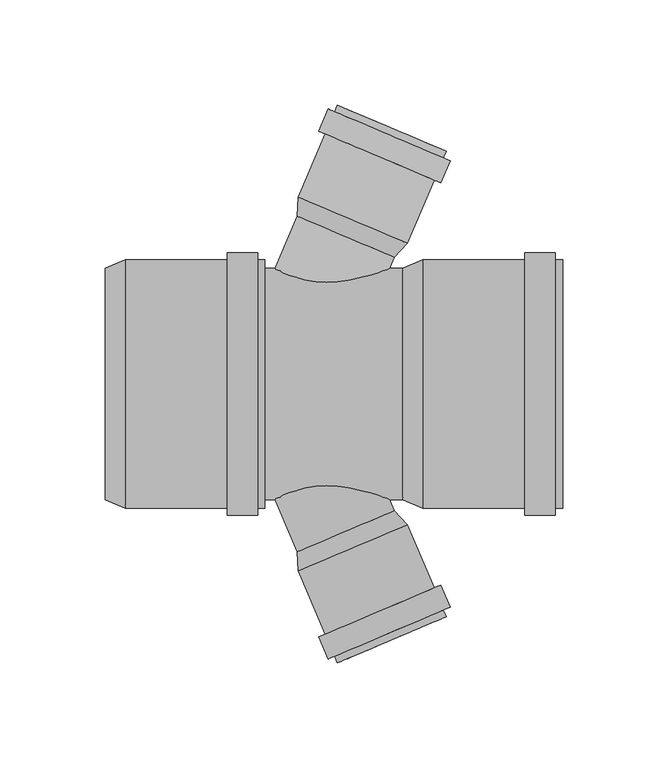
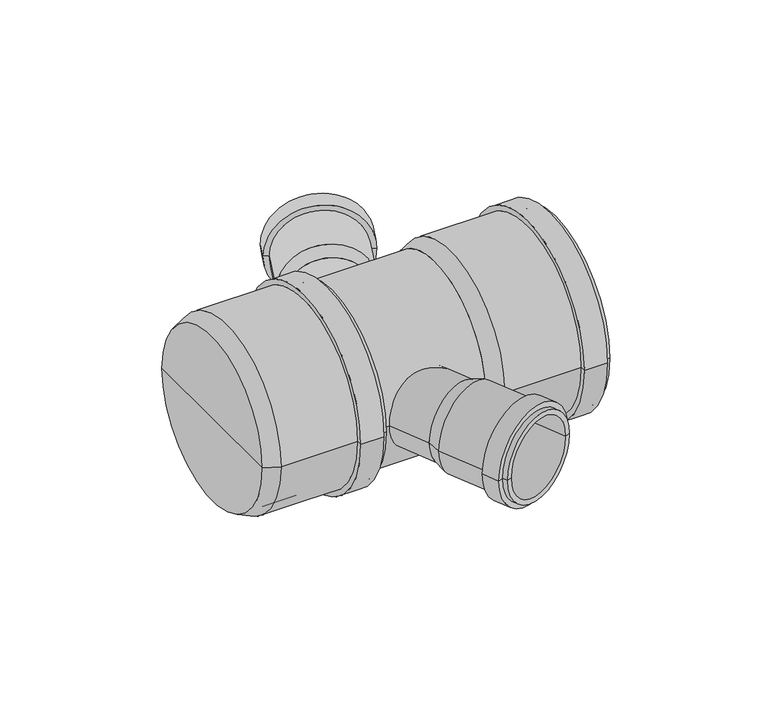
"""IFC4 building model written with IfcOpenShell, lengths in millimetres: pipe fitting geometry, pf_HTDA : pf_HTDA."""

from ifc_helpers import new_model, si_unit, point, frame, origin, origin_2d, place, context, project, spatial, polyline, circle_curve, trimmed, segment, composite_curve, outline, extrude, source, transform, mapped, element, save
from ifc_brep_helpers import plane_surface, cylinder_surface, revolved_surface, advanced_brep


def pipe_fitting_b3aaeca4(model_context):
    return source(origin(), model_context, "Body", "SolidModel", [
        advanced_brep(
        [(52.7472602, 60.2821411, 0.0), (6.7220175, 79.8186976, 0.0), (7.1896671, 88.8542553, 0.0), (58.9220399, 66.8951659, 0.0), (29.7346389, 70.0504193, 0.0), (77.4817685, 110.6191464, 0.0), (25.7493957, 132.5782359, 0.0), (28.6029607, 131.3669694, 0.0), (74.6282034, 111.8304129, 0.0), (76.1532826, 107.4894299, 0.0), (24.4209099, 129.4485193, 0.0), (79.2829991, 106.1609441, 0.0), (21.2911934, 130.7770052, 0.0), (74.8286643, 95.6671888, 0.0), (16.8368585, 120.2832499, 0.0), (71.6989478, 96.9956746, 0.0), (19.966575, 118.954764, 0.0), (56.0684748, 68.1064324, 0.0), (10.0432321, 87.6429888, 0.0), (33.0558535, 77.8747106, 0.0)],
        [
            (0, 1, circle_curve(frame((29.7346389, 70.0504193, 0.0), z_axis=(0.39073112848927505, 0.9205048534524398, 0.0), x_axis=(-0.9205048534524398, 0.39073112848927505, 0.0)), 25.0)),
            (1, 2),
            (2, 3, circle_curve(frame((33.0558535, 77.8747106, 0.0), z_axis=(-0.39073112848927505, -0.9205048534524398, 0.0), x_axis=(-0.9205048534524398, 0.39073112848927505, 0.0)), 28.1)),
            (3, 0),
            (1, 0, circle_curve(frame((29.7346389, 70.0504193, 0.0), z_axis=(0.39073112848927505, 0.9205048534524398, 0.0), x_axis=(-0.9205048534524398, 0.39073112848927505, 0.0)), 25.0)),
            (3, 2, circle_curve(frame((33.0558535, 77.8747106, 0.0), z_axis=(-0.39073112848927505, -0.9205048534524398, 0.0), x_axis=(-0.9205048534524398, 0.39073112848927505, 0.0)), 28.1)),
            (4, 1),
            (0, 4),
            (5, 6, circle_curve(frame((51.6155821, 121.5986911, 0.0), z_axis=(0.39073112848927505, 0.9205048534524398, 0.0), x_axis=(-0.9205048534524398, 0.39073112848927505, 0.0)), 28.1)),
            (6, 7),
            (7, 8, circle_curve(frame((51.6155821, 121.5986911, 0.0), z_axis=(-0.39073112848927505, -0.9205048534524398, 0.0), x_axis=(-0.9205048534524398, 0.39073112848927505, 0.0)), 25.0)),
            (8, 5),
            (6, 5, circle_curve(frame((51.6155821, 121.5986911, 0.0), z_axis=(0.39073112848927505, 0.9205048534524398, 0.0), x_axis=(-0.9205048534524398, 0.39073112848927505, 0.0)), 28.1)),
            (8, 7, circle_curve(frame((51.6155821, 121.5986911, 0.0), z_axis=(-0.39073112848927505, -0.9205048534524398, 0.0), x_axis=(-0.9205048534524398, 0.39073112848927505, 0.0)), 25.0)),
            (9, 10, circle_curve(frame((50.2870962, 118.4689746, 0.0), z_axis=(0.39073112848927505, 0.9205048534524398, 0.0), x_axis=(-0.9205048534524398, 0.39073112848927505, 0.0)), 28.1)),
            (10, 6),
            (5, 9),
            (10, 9, circle_curve(frame((50.2870962, 118.4689746, 0.0), z_axis=(0.39073112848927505, 0.9205048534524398, 0.0), x_axis=(-0.9205048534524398, 0.39073112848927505, 0.0)), 28.1)),
            (11, 12, circle_curve(frame((50.2870962, 118.4689746, 0.0), z_axis=(0.39073112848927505, 0.9205048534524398, 0.0), x_axis=(-0.9205048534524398, 0.39073112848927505, 0.0)), 31.5)),
            (12, 10),
            (9, 11),
            (12, 11, circle_curve(frame((50.2870962, 118.4689746, 0.0), z_axis=(0.39073112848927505, 0.9205048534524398, 0.0), x_axis=(-0.9205048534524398, 0.39073112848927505, 0.0)), 31.5)),
            (13, 14, circle_curve(frame((45.8327614, 107.9752193, 0.0), z_axis=(0.39073112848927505, 0.9205048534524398, 0.0), x_axis=(-0.9205048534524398, 0.39073112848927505, 0.0)), 31.5)),
            (14, 12),
            (11, 13),
            (14, 13, circle_curve(frame((45.8327614, 107.9752193, 0.0), z_axis=(0.39073112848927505, 0.9205048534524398, 0.0), x_axis=(-0.9205048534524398, 0.39073112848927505, 0.0)), 31.5)),
            (15, 16, circle_curve(frame((45.8327614, 107.9752193, 0.0), z_axis=(0.39073112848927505, 0.9205048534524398, 0.0), x_axis=(-0.9205048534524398, 0.39073112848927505, 0.0)), 28.1)),
            (16, 14),
            (13, 15),
            (16, 15, circle_curve(frame((45.8327614, 107.9752193, 0.0), z_axis=(0.39073112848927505, 0.9205048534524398, 0.0), x_axis=(-0.9205048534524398, 0.39073112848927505, 0.0)), 28.1)),
            (2, 16),
            (15, 3),
            (17, 18, circle_curve(frame((33.0558535, 77.8747106, 0.0), z_axis=(0.39073112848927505, 0.9205048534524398, 0.0), x_axis=(-0.9205048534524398, 0.39073112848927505, 0.0)), 25.0)),
            (18, 19),
            (19, 17),
            (18, 17, circle_curve(frame((33.0558535, 77.8747106, 0.0), z_axis=(0.39073112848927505, 0.9205048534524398, 0.0), x_axis=(-0.9205048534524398, 0.39073112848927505, 0.0)), 25.0)),
            (7, 18),
            (17, 8),
        ],
        [
            revolved_surface(polyline([(7.1896671, 88.8542553, 0.0), (6.7220175, 79.8186976, 0.0)]), (29.7346389, 70.0504193, 0.0), (-0.39073112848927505, -0.9205048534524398, 0.0)),
            plane_surface(frame((29.7346389, 70.0504193, 0.0), z_axis=(-0.39073112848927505, -0.9205048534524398, 0.0), x_axis=(-0.9205048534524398, 0.39073112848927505, 0.0))),
            plane_surface(frame((51.6155821, 121.5986911, 0.0), z_axis=(0.39073112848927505, 0.9205048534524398, 0.0), x_axis=(-0.9205048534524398, 0.39073112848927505, 0.0))),
            cylinder_surface(frame((29.7346389, 70.0504193, 0.0), z_axis=(-0.39073112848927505, -0.9205048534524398, 0.0), x_axis=(-0.9205048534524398, 0.39073112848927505, 0.0)), 28.1),
            plane_surface(frame((50.2870962, 118.4689746, 0.0), z_axis=(0.39073112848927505, 0.9205048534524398, 0.0), x_axis=(-0.9205048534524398, 0.39073112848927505, 0.0))),
            cylinder_surface(frame((29.7346389, 70.0504193, 0.0), z_axis=(-0.39073112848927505, -0.9205048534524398, 0.0), x_axis=(-0.9205048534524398, 0.39073112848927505, 0.0)), 31.5),
            plane_surface(frame((45.8327614, 107.9752193, 0.0), z_axis=(-0.39073112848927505, -0.9205048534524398, 0.0), x_axis=(-0.9205048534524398, 0.39073112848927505, 0.0))),
            plane_surface(frame((33.0558535, 77.8747106, 0.0), z_axis=(0.39073112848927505, 0.9205048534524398, 0.0), x_axis=(-0.9205048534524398, 0.39073112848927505, 0.0))),
            revolved_surface(polyline([(10.043232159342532, 87.64298877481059, 0.0), (28.60296078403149, 131.36696936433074, 0.0)]), (29.7346389, 70.0504193, 0.0), (-0.39073112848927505, -0.9205048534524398, 0.0)),
        ],
        [
            (0, [[1, 2, 3, 4]]),
            (0, [[5, -4, 6, -2]]),
            (1, [[7, -1, 8]]),
            (1, [[-8, -5, -7]]),
            (2, [[9, 10, 11, 12]]),
            (2, [[13, -12, 14, -10]]),
            (3, [[15, 16, -9, 17]]),
            (3, [[18, -17, -13, -16]]),
            (4, [[19, 20, -15, 21]]),
            (4, [[22, -21, -18, -20]]),
            (5, [[23, 24, -19, 25]]),
            (5, [[26, -25, -22, -24]]),
            (6, [[27, 28, -23, 29]]),
            (6, [[30, -29, -26, -28]]),
            (3, [[-3, 31, -27, 32]]),
            (3, [[-6, -32, -30, -31]]),
            (7, [[33, 34, 35]]),
            (7, [[36, -35, -34]]),
            (8, [[-11, 37, -33, 38]]),
            (8, [[-14, -38, -36, -37]]),
        ],
    ),
        advanced_brep(
        [(6.7220175, -79.8186976, 0.0), (52.7472602, -60.2821411, 0.0), (58.9220399, -66.8951659, 0.0), (7.1896671, -88.8542553, 0.0), (29.7346389, -70.0504193, 0.0), (25.7493957, -132.5782359, 0.0), (77.4817685, -110.6191464, 0.0), (74.6282034, -111.8304129, 0.0), (28.6029607, -131.3669694, 0.0), (24.4209099, -129.4485193, 0.0), (76.1532826, -107.4894299, 0.0), (21.2911934, -130.7770052, 0.0), (79.2829991, -106.1609441, 0.0), (16.8368585, -120.2832499, 0.0), (74.8286643, -95.6671888, 0.0), (19.966575, -118.954764, 0.0), (71.6989478, -96.9956746, 0.0), (10.0432321, -87.6429888, 0.0), (56.0684748, -68.1064324, 0.0), (33.0558535, -77.8747106, 0.0)],
        [
            (0, 1, circle_curve(frame((29.7346389, -70.0504193, 0.0), z_axis=(0.3907311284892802, -0.9205048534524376, 0.0), x_axis=(0.9205048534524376, 0.3907311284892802, 0.0)), 25.0)),
            (1, 2),
            (2, 3, circle_curve(frame((33.0558535, -77.8747106, 0.0), z_axis=(-0.3907311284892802, 0.9205048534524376, 0.0), x_axis=(0.9205048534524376, 0.3907311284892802, 0.0)), 28.1)),
            (3, 0),
            (1, 0, circle_curve(frame((29.7346389, -70.0504193, 0.0), z_axis=(0.3907311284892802, -0.9205048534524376, 0.0), x_axis=(0.9205048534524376, 0.3907311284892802, 0.0)), 25.0)),
            (3, 2, circle_curve(frame((33.0558535, -77.8747106, 0.0), z_axis=(-0.3907311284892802, 0.9205048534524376, 0.0), x_axis=(0.9205048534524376, 0.3907311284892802, 0.0)), 28.1)),
            (4, 1),
            (0, 4),
            (5, 6, circle_curve(frame((51.6155821, -121.5986911, 0.0), z_axis=(0.3907311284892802, -0.9205048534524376, 0.0), x_axis=(0.9205048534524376, 0.3907311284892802, 0.0)), 28.1)),
            (6, 7),
            (7, 8, circle_curve(frame((51.6155821, -121.5986911, 0.0), z_axis=(-0.3907311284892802, 0.9205048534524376, 0.0), x_axis=(0.9205048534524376, 0.3907311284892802, 0.0)), 25.0)),
            (8, 5),
            (6, 5, circle_curve(frame((51.6155821, -121.5986911, 0.0), z_axis=(0.3907311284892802, -0.9205048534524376, 0.0), x_axis=(0.9205048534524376, 0.3907311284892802, 0.0)), 28.1)),
            (8, 7, circle_curve(frame((51.6155821, -121.5986911, 0.0), z_axis=(-0.3907311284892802, 0.9205048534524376, 0.0), x_axis=(0.9205048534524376, 0.3907311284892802, 0.0)), 25.0)),
            (9, 10, circle_curve(frame((50.2870962, -118.4689746, 0.0), z_axis=(0.3907311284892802, -0.9205048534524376, 0.0), x_axis=(0.9205048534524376, 0.3907311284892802, 0.0)), 28.1)),
            (10, 6),
            (5, 9),
            (10, 9, circle_curve(frame((50.2870962, -118.4689746, 0.0), z_axis=(0.3907311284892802, -0.9205048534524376, 0.0), x_axis=(0.9205048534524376, 0.3907311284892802, 0.0)), 28.1)),
            (11, 12, circle_curve(frame((50.2870962, -118.4689746, 0.0), z_axis=(0.3907311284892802, -0.9205048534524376, 0.0), x_axis=(0.9205048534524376, 0.3907311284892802, 0.0)), 31.5)),
            (12, 10),
            (9, 11),
            (12, 11, circle_curve(frame((50.2870962, -118.4689746, 0.0), z_axis=(0.3907311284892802, -0.9205048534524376, 0.0), x_axis=(0.9205048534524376, 0.3907311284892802, 0.0)), 31.5)),
            (13, 14, circle_curve(frame((45.8327614, -107.9752193, 0.0), z_axis=(0.3907311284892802, -0.9205048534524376, 0.0), x_axis=(0.9205048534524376, 0.3907311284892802, 0.0)), 31.5)),
            (14, 12),
            (11, 13),
            (14, 13, circle_curve(frame((45.8327614, -107.9752193, 0.0), z_axis=(0.3907311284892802, -0.9205048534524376, 0.0), x_axis=(0.9205048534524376, 0.3907311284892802, 0.0)), 31.5)),
            (15, 16, circle_curve(frame((45.8327614, -107.9752193, 0.0), z_axis=(0.3907311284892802, -0.9205048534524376, 0.0), x_axis=(0.9205048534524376, 0.3907311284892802, 0.0)), 28.1)),
            (16, 14),
            (13, 15),
            (16, 15, circle_curve(frame((45.8327614, -107.9752193, 0.0), z_axis=(0.3907311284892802, -0.9205048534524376, 0.0), x_axis=(0.9205048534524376, 0.3907311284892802, 0.0)), 28.1)),
            (2, 16),
            (15, 3),
            (17, 18, circle_curve(frame((33.0558535, -77.8747106, 0.0), z_axis=(0.3907311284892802, -0.9205048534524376, 0.0), x_axis=(0.9205048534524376, 0.3907311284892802, 0.0)), 25.0)),
            (18, 19),
            (19, 17),
            (18, 17, circle_curve(frame((33.0558535, -77.8747106, 0.0), z_axis=(0.3907311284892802, -0.9205048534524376, 0.0), x_axis=(0.9205048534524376, 0.3907311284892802, 0.0)), 25.0)),
            (7, 18),
            (17, 8),
        ],
        [
            revolved_surface(polyline([(58.9220399, -66.8951659, 0.0), (52.7472602, -60.2821411, 0.0)]), (29.7346389, -70.0504193, 0.0), (-0.3907311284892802, 0.9205048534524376, 0.0)),
            plane_surface(frame((29.7346389, -70.0504193, 0.0), z_axis=(-0.3907311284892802, 0.9205048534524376, 0.0), x_axis=(0.9205048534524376, 0.3907311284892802, 0.0))),
            plane_surface(frame((51.6155821, -121.5986911, 0.0), z_axis=(0.3907311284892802, -0.9205048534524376, 0.0), x_axis=(0.9205048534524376, 0.3907311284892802, 0.0))),
            cylinder_surface(frame((29.7346389, -70.0504193, 0.0), z_axis=(-0.3907311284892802, 0.9205048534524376, 0.0), x_axis=(0.9205048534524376, 0.3907311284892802, 0.0)), 28.1),
            plane_surface(frame((50.2870962, -118.4689746, 0.0), z_axis=(0.3907311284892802, -0.9205048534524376, 0.0), x_axis=(0.9205048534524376, 0.3907311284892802, 0.0))),
            cylinder_surface(frame((29.7346389, -70.0504193, 0.0), z_axis=(-0.3907311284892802, 0.9205048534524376, 0.0), x_axis=(0.9205048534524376, 0.3907311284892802, 0.0)), 31.5),
            plane_surface(frame((45.8327614, -107.9752193, 0.0), z_axis=(-0.3907311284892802, 0.9205048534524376, 0.0), x_axis=(0.9205048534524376, 0.3907311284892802, 0.0))),
            plane_surface(frame((33.0558535, -77.8747106, 0.0), z_axis=(0.3907311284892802, -0.9205048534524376, 0.0), x_axis=(0.9205048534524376, 0.3907311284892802, 0.0))),
            revolved_surface(polyline([(56.06847483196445, -68.10643235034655, 0.0), (74.62820345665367, -111.83041293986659, 0.0)]), (29.7346389, -70.0504193, 0.0), (-0.3907311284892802, 0.9205048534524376, 0.0)),
        ],
        [
            (0, [[1, 2, 3, 4]]),
            (0, [[5, -4, 6, -2]]),
            (1, [[7, -1, 8]]),
            (1, [[-8, -5, -7]]),
            (2, [[9, 10, 11, 12]]),
            (2, [[13, -12, 14, -10]]),
            (3, [[15, 16, -9, 17]]),
            (3, [[18, -17, -13, -16]]),
            (4, [[19, 20, -15, 21]]),
            (4, [[22, -21, -18, -20]]),
            (5, [[23, 24, -19, 25]]),
            (5, [[26, -25, -22, -24]]),
            (6, [[27, 28, -23, 29]]),
            (6, [[30, -29, -26, -28]]),
            (3, [[-3, 31, -27, 32]]),
            (3, [[-6, -32, -30, -31]]),
            (7, [[33, 34, 35]]),
            (7, [[36, -35, -34]]),
            (8, [[-11, 37, -33, 38]]),
            (8, [[-14, -38, -36, -37]]),
        ],
    ),
        advanced_brep(
        [(56.8, -55.0, 0.0), (56.8, 55.0, 0.0), (66.3, 59.1, 0.0), (66.3, -59.1, 0.0), (56.8, 0.0, 0.0), (132.8, -59.1, 0.0), (132.8, 59.1, 0.0), (132.8, 55.0, 0.0), (132.8, -55.0, 0.0), (129.4, -59.1, 0.0), (129.4, 59.1, 0.0), (129.4, -62.5, 0.0), (129.4, 62.5, 0.0), (114.9, -62.5, 0.0), (114.9, 62.5, 0.0), (114.9, -59.1, 0.0), (114.9, 59.1, 0.0), (66.3, -55.0, 0.0), (66.3, 55.0, 0.0), (66.3, 0.0, 0.0)],
        [
            (0, 1, circle_curve(frame((56.8, 0.0, 0.0), z_axis=(1.0, 0.0, 0.0), x_axis=(0.0, 1.0, 0.0)), 55.0)),
            (1, 2),
            (2, 3, circle_curve(frame((66.3, 0.0, 0.0), z_axis=(-1.0, 0.0, 0.0), x_axis=(0.0, 1.0, 0.0)), 59.1)),
            (3, 0),
            (1, 0, circle_curve(frame((56.8, 0.0, 0.0), z_axis=(1.0, 0.0, 0.0), x_axis=(0.0, 1.0, 0.0)), 55.0)),
            (3, 2, circle_curve(frame((66.3, 0.0, 0.0), z_axis=(-1.0, 0.0, 0.0), x_axis=(0.0, 1.0, 0.0)), 59.1)),
            (4, 1),
            (0, 4),
            (5, 6, circle_curve(frame((132.8, 0.0, 0.0), z_axis=(1.0, 0.0, 0.0), x_axis=(0.0, 1.0, 0.0)), 59.1)),
            (6, 7),
            (7, 8, circle_curve(frame((132.8, 0.0, 0.0), z_axis=(-1.0, 0.0, 0.0), x_axis=(0.0, 1.0, 0.0)), 55.0)),
            (8, 5),
            (6, 5, circle_curve(frame((132.8, 0.0, 0.0), z_axis=(1.0, 0.0, 0.0), x_axis=(0.0, 1.0, 0.0)), 59.1)),
            (8, 7, circle_curve(frame((132.8, 0.0, 0.0), z_axis=(-1.0, 0.0, 0.0), x_axis=(0.0, 1.0, 0.0)), 55.0)),
            (9, 10, circle_curve(frame((129.4, 0.0, 0.0), z_axis=(1.0, 0.0, 0.0), x_axis=(0.0, 1.0, 0.0)), 59.1)),
            (10, 6),
            (5, 9),
            (10, 9, circle_curve(frame((129.4, 0.0, 0.0), z_axis=(1.0, 0.0, 0.0), x_axis=(0.0, 1.0, 0.0)), 59.1)),
            (11, 12, circle_curve(frame((129.4, 0.0, 0.0), z_axis=(1.0, 0.0, 0.0), x_axis=(0.0, 1.0, 0.0)), 62.5)),
            (12, 10),
            (9, 11),
            (12, 11, circle_curve(frame((129.4, 0.0, 0.0), z_axis=(1.0, 0.0, 0.0), x_axis=(0.0, 1.0, 0.0)), 62.5)),
            (13, 14, circle_curve(frame((114.9, 0.0, 0.0), z_axis=(1.0, 0.0, 0.0), x_axis=(0.0, 1.0, 0.0)), 62.5)),
            (14, 12),
            (11, 13),
            (14, 13, circle_curve(frame((114.9, 0.0, 0.0), z_axis=(1.0, 0.0, 0.0), x_axis=(0.0, 1.0, 0.0)), 62.5)),
            (15, 16, circle_curve(frame((114.9, 0.0, 0.0), z_axis=(1.0, 0.0, 0.0), x_axis=(0.0, 1.0, 0.0)), 59.1)),
            (16, 14),
            (13, 15),
            (16, 15, circle_curve(frame((114.9, 0.0, 0.0), z_axis=(1.0, 0.0, 0.0), x_axis=(0.0, 1.0, 0.0)), 59.1)),
            (2, 16),
            (15, 3),
            (17, 18, circle_curve(frame((66.3, 0.0, 0.0), z_axis=(1.0, 0.0, 0.0), x_axis=(0.0, 1.0, 0.0)), 55.0)),
            (18, 19),
            (19, 17),
            (18, 17, circle_curve(frame((66.3, 0.0, 0.0), z_axis=(1.0, 0.0, 0.0), x_axis=(0.0, 1.0, 0.0)), 55.0)),
            (7, 18),
            (17, 8),
        ],
        [
            revolved_surface(polyline([(66.3, 59.1, 0.0), (56.8, 55.0, 0.0)]), (56.8, 0.0, 0.0), (-1.0, 0.0, 0.0)),
            plane_surface(frame((56.8, 0.0, 0.0), z_axis=(-1.0, 0.0, 0.0), x_axis=(0.0, 1.0, 0.0))),
            plane_surface(frame((132.8, 0.0, 0.0), z_axis=(1.0, 0.0, 0.0), x_axis=(0.0, 1.0, 0.0))),
            cylinder_surface(frame((56.8, 0.0, 0.0), z_axis=(-1.0, 0.0, 0.0), x_axis=(0.0, 1.0, 0.0)), 59.1),
            plane_surface(frame((129.4, 0.0, 0.0), z_axis=(1.0, 0.0, 0.0), x_axis=(0.0, 1.0, 0.0))),
            cylinder_surface(frame((56.8, 0.0, 0.0), z_axis=(-1.0, 0.0, 0.0), x_axis=(0.0, 1.0, 0.0)), 62.5),
            plane_surface(frame((114.9, 0.0, 0.0), z_axis=(-1.0, 0.0, 0.0), x_axis=(0.0, 1.0, 0.0))),
            plane_surface(frame((66.3, 0.0, 0.0), z_axis=(1.0, 0.0, 0.0), x_axis=(0.0, 1.0, 0.0))),
            revolved_surface(polyline([(66.3, 55.0, 0.0), (132.8, 55.0, 0.0)]), (56.8, 0.0, 0.0), (-1.0, 0.0, 0.0)),
        ],
        [
            (0, [[1, 2, 3, 4]]),
            (0, [[5, -4, 6, -2]]),
            (1, [[7, -1, 8]]),
            (1, [[-8, -5, -7]]),
            (2, [[9, 10, 11, 12]]),
            (2, [[13, -12, 14, -10]]),
            (3, [[15, 16, -9, 17]]),
            (3, [[18, -17, -13, -16]]),
            (4, [[19, 20, -15, 21]]),
            (4, [[22, -21, -18, -20]]),
            (5, [[23, 24, -19, 25]]),
            (5, [[26, -25, -22, -24]]),
            (6, [[27, 28, -23, 29]]),
            (6, [[30, -29, -26, -28]]),
            (3, [[-3, 31, -27, 32]]),
            (3, [[-6, -32, -30, -31]]),
            (7, [[33, 34, 35]]),
            (7, [[36, -35, -34]]),
            (8, [[-11, 37, -33, 38]]),
            (8, [[-14, -38, -36, -37]]),
        ],
    ),
        advanced_brep(
        [(-84.7, -55.0, 0.0), (-84.7, 55.0, 0.0), (-75.2, 59.1, 0.0), (-75.2, -59.1, 0.0), (-84.7, 0.0, 0.0), (-8.7, -59.1, 0.0), (-8.7, 59.1, 0.0), (-8.7, 55.0, 0.0), (-8.7, -55.0, 0.0), (-12.1, -59.1, 0.0), (-12.1, 59.1, 0.0), (-12.1, -62.5, 0.0), (-12.1, 62.5, 0.0), (-26.6, -62.5, 0.0), (-26.6, 62.5, 0.0), (-26.6, -59.1, 0.0), (-26.6, 59.1, 0.0), (-75.2, -55.0, 0.0), (-75.2, 55.0, 0.0), (-75.2, 0.0, 0.0)],
        [
            (0, 1, circle_curve(frame((-84.7, 0.0, 0.0), z_axis=(1.0, 0.0, 0.0), x_axis=(0.0, 1.0, 0.0)), 55.0)),
            (1, 2),
            (2, 3, circle_curve(frame((-75.2, 0.0, 0.0), z_axis=(-1.0, 0.0, 0.0), x_axis=(0.0, 1.0, 0.0)), 59.1)),
            (3, 0),
            (1, 0, circle_curve(frame((-84.7, 0.0, 0.0), z_axis=(1.0, 0.0, 0.0), x_axis=(0.0, 1.0, 0.0)), 55.0)),
            (3, 2, circle_curve(frame((-75.2, 0.0, 0.0), z_axis=(-1.0, 0.0, 0.0), x_axis=(0.0, 1.0, 0.0)), 59.1)),
            (4, 1),
            (0, 4),
            (5, 6, circle_curve(frame((-8.7, 0.0, 0.0), z_axis=(1.0, 0.0, 0.0), x_axis=(0.0, 1.0, 0.0)), 59.1)),
            (6, 7),
            (7, 8, circle_curve(frame((-8.7, 0.0, 0.0), z_axis=(-1.0, 0.0, 0.0), x_axis=(0.0, 1.0, 0.0)), 55.0)),
            (8, 5),
            (6, 5, circle_curve(frame((-8.7, 0.0, 0.0), z_axis=(1.0, 0.0, 0.0), x_axis=(0.0, 1.0, 0.0)), 59.1)),
            (8, 7, circle_curve(frame((-8.7, 0.0, 0.0), z_axis=(-1.0, 0.0, 0.0), x_axis=(0.0, 1.0, 0.0)), 55.0)),
            (9, 10, circle_curve(frame((-12.1, 0.0, 0.0), z_axis=(1.0, 0.0, 0.0), x_axis=(0.0, 1.0, 0.0)), 59.1)),
            (10, 6),
            (5, 9),
            (10, 9, circle_curve(frame((-12.1, 0.0, 0.0), z_axis=(1.0, 0.0, 0.0), x_axis=(0.0, 1.0, 0.0)), 59.1)),
            (11, 12, circle_curve(frame((-12.1, 0.0, 0.0), z_axis=(1.0, 0.0, 0.0), x_axis=(0.0, 1.0, 0.0)), 62.5)),
            (12, 10),
            (9, 11),
            (12, 11, circle_curve(frame((-12.1, 0.0, 0.0), z_axis=(1.0, 0.0, 0.0), x_axis=(0.0, 1.0, 0.0)), 62.5)),
            (13, 14, circle_curve(frame((-26.6, 0.0, 0.0), z_axis=(1.0, 0.0, 0.0), x_axis=(0.0, 1.0, 0.0)), 62.5)),
            (14, 12),
            (11, 13),
            (14, 13, circle_curve(frame((-26.6, 0.0, 0.0), z_axis=(1.0, 0.0, 0.0), x_axis=(0.0, 1.0, 0.0)), 62.5)),
            (15, 16, circle_curve(frame((-26.6, 0.0, 0.0), z_axis=(1.0, 0.0, 0.0), x_axis=(0.0, 1.0, 0.0)), 59.1)),
            (16, 14),
            (13, 15),
            (16, 15, circle_curve(frame((-26.6, 0.0, 0.0), z_axis=(1.0, 0.0, 0.0), x_axis=(0.0, 1.0, 0.0)), 59.1)),
            (2, 16),
            (15, 3),
            (17, 18, circle_curve(frame((-75.2, 0.0, 0.0), z_axis=(1.0, 0.0, 0.0), x_axis=(0.0, 1.0, 0.0)), 55.0)),
            (18, 19),
            (19, 17),
            (18, 17, circle_curve(frame((-75.2, 0.0, 0.0), z_axis=(1.0, 0.0, 0.0), x_axis=(0.0, 1.0, 0.0)), 55.0)),
            (7, 18),
            (17, 8),
        ],
        [
            revolved_surface(polyline([(-75.2, 59.1, 0.0), (-84.7, 55.0, 0.0)]), (-84.7, 0.0, 0.0), (-1.0, 0.0, 0.0)),
            plane_surface(frame((-84.7, 0.0, 0.0), z_axis=(-1.0, 0.0, 0.0), x_axis=(0.0, 1.0, 0.0))),
            plane_surface(frame((-8.7, 0.0, 0.0), z_axis=(1.0, 0.0, 0.0), x_axis=(0.0, 1.0, 0.0))),
            cylinder_surface(frame((-84.7, 0.0, 0.0), z_axis=(-1.0, 0.0, 0.0), x_axis=(0.0, 1.0, 0.0)), 59.1),
            plane_surface(frame((-12.1, 0.0, 0.0), z_axis=(1.0, 0.0, 0.0), x_axis=(0.0, 1.0, 0.0))),
            cylinder_surface(frame((-84.7, 0.0, 0.0), z_axis=(-1.0, 0.0, 0.0), x_axis=(0.0, 1.0, 0.0)), 62.5),
            plane_surface(frame((-26.6, 0.0, 0.0), z_axis=(-1.0, 0.0, 0.0), x_axis=(0.0, 1.0, 0.0))),
            plane_surface(frame((-75.2, 0.0, 0.0), z_axis=(1.0, 0.0, 0.0), x_axis=(0.0, 1.0, 0.0))),
            revolved_surface(polyline([(-75.2, 55.0, 0.0), (-8.700000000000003, 55.0, 0.0)]), (-84.7, 0.0, 0.0), (-1.0, 0.0, 0.0)),
        ],
        [
            (0, [[1, 2, 3, 4]]),
            (0, [[5, -4, 6, -2]]),
            (1, [[7, -1, 8]]),
            (1, [[-8, -5, -7]]),
            (2, [[9, 10, 11, 12]]),
            (2, [[13, -12, 14, -10]]),
            (3, [[15, 16, -9, 17]]),
            (3, [[18, -17, -13, -16]]),
            (4, [[19, 20, -15, 21]]),
            (4, [[22, -21, -18, -20]]),
            (5, [[23, 24, -19, 25]]),
            (5, [[26, -25, -22, -24]]),
            (6, [[27, 28, -23, 29]]),
            (6, [[30, -29, -26, -28]]),
            (3, [[-3, 31, -27, 32]]),
            (3, [[-6, -32, -30, -31]]),
            (7, [[33, 34, 35]]),
            (7, [[36, -35, -34]]),
            (8, [[-11, 37, -33, 38]]),
            (8, [[-14, -38, -36, -37]]),
        ],
    ),
        extrude(outline(composite_curve([segment(trimmed(circle_curve(origin_2d(), 25.0), [point((0.0, 25.0))], [point((0.0, -25.0))], False, "CARTESIAN"), True, "CONTINUOUS"), segment(trimmed(circle_curve(origin_2d(), 25.0), [point((0.0, -25.0))], [point((0.0, 25.0))], False, "CARTESIAN"), True, "CONTINUOUS")], self_intersect=False)), frame((0.0, 0.0, 0.0), z_axis=(0.3907311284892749, 0.9205048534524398, 0.0), x_axis=(0.0, 0.0, 1.0)), (0.0, 0.0, 1.0), 76.1),
        extrude(outline(composite_curve([segment(trimmed(circle_curve(origin_2d(), 25.0), [point((0.0, -25.0000001))], [point((0.0, 25.0))], False, "CARTESIAN"), True, "CONTINUOUS"), segment(trimmed(circle_curve(origin_2d(), 25.0), [point((0.0, 25.0))], [point((0.0, -25.0000001))], False, "CARTESIAN"), True, "CONTINUOUS")], self_intersect=False)), frame((29.7346389, -70.0504193, 0.0), z_axis=(-0.390731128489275, 0.9205048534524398, 0.0), x_axis=(0.0, 0.0, 1.0)), (0.0, 0.0, 1.0), 76.1),
        extrude(outline(composite_curve([segment(trimmed(circle_curve(origin_2d(), 55.0), [point((-55.0, 0.0))], [point((55.0, 0.0))], False, "CARTESIAN"), True, "CONTINUOUS"), segment(trimmed(circle_curve(origin_2d(), 55.0), [point((55.0, 0.0))], [point((-55.0, 0.0))], False, "CARTESIAN"), True, "CONTINUOUS")], self_intersect=False)), frame((-75.2, 0.0, 0.0), z_axis=(1.0, 0.0, 0.0), x_axis=(0.0, 1.0, 0.0)), (0.0, 0.0, 1.0), 132.0),
    ])


if __name__ == "__main__":
    model = new_model("IFC4")
    model_context = context("Model", 3, world=origin())
    ifc_project = project(units=[si_unit("LENGTHUNIT", "METRE", prefix="MILLI")], contexts=[model_context])
    site = spatial("IfcSite", under=ifc_project)
    building = spatial("IfcBuilding", under=site)
    placement = place(None, origin())
    pipe_fitting_shape = pipe_fitting_b3aaeca4(model_context)
    element("IfcPipeFitting", 1, ObjectType="pf_HTDA : pf_HTDA", at=placement, inside=building, context=model_context, shape_type="MappedRepresentation", body=[
        mapped(pipe_fitting_shape, transform((0.0, 0.0, 0.0), x_axis=(1.0, 0.0, 0.0), y_axis=(0.0, 1.0, 0.0), z_axis=(0.0, 0.0, 1.0))),
    ])
    save(model, "model.ifc")
